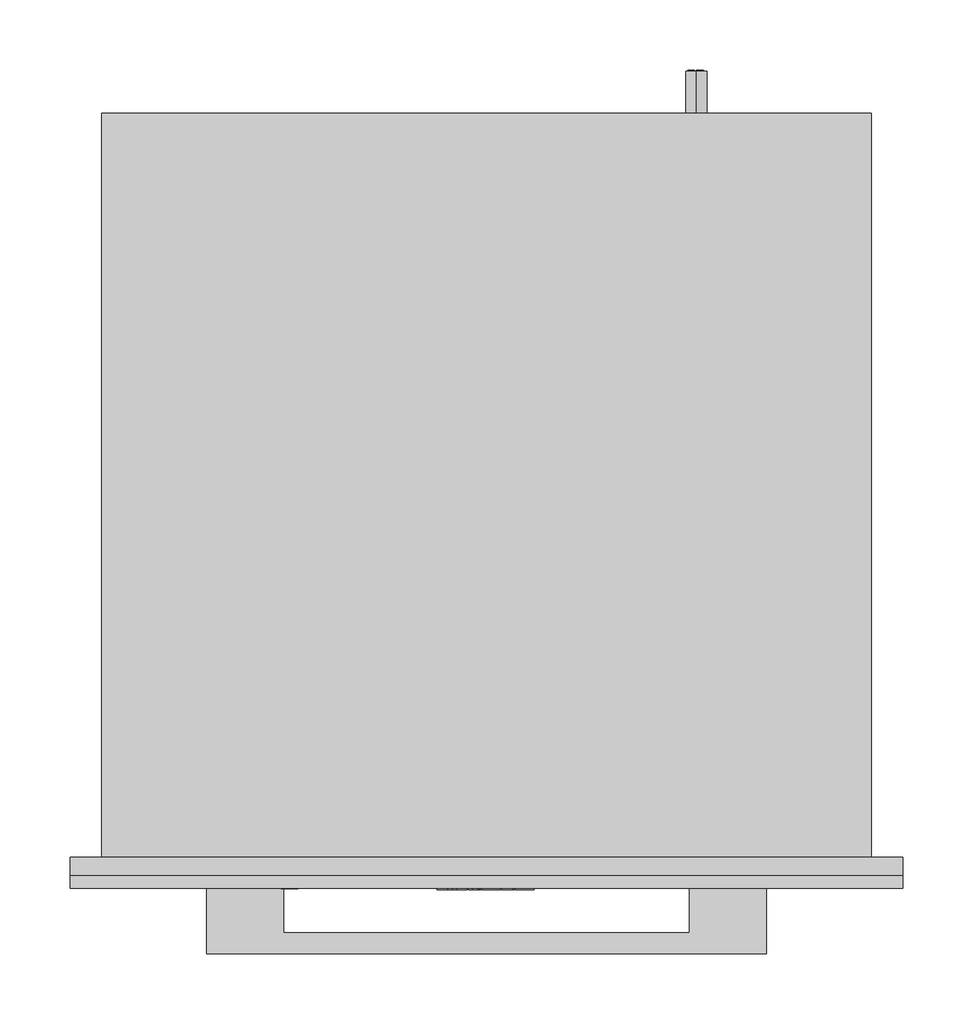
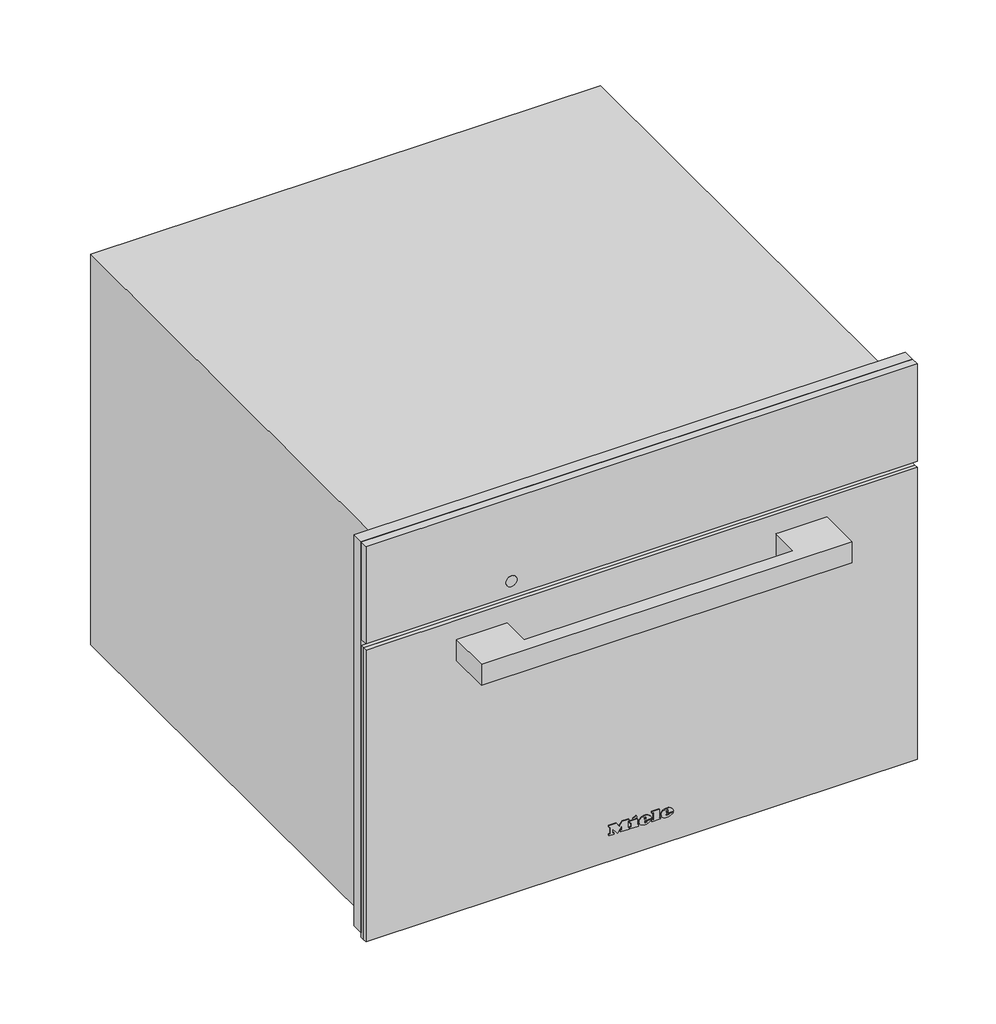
# Not in any storey: 1 proxy.
"""IFC4 building model written with IfcOpenShell, lengths in millimetres."""

import ifcopenshell
import ifcopenshell.guid

model = None  # the IFC model being written
_history = None  # IfcOwnerHistory: only IFC2X3 demands one
_inside = {}  # id of a spatial element -> (the spatial element, [elements in it])
_under = {}  # id of a project, library or spatial element -> (it, [spatial elements below it])
_declared = {}  # id of a project -> (the project, [libraries it declares])
_typed = {}  # id of a type object -> (the type object, [elements of that type])
_made_of = {}  # id of a material, layer set ... -> (it, [elements and type objects made of it])


def new_model(schema):
    """Start an empty IFC model of exactly this schema.

    Asked for "IFC4X3", IfcOpenShell would pick the latest addendum, in which some entities
    have other attributes; the version numbers below select the first issue.
    IFC2X3 requires an IfcOwnerHistory on every rooted entity: one is made here for all.
    """
    global model, _history
    if schema == "IFC4X3":
        model = ifcopenshell.file(schema_version=(4, 3, 0, 0))
    else:
        model = ifcopenshell.file(schema=schema)
    _inside.clear()
    _under.clear()
    _declared.clear()
    _typed.clear()
    _made_of.clear()
    _history = None
    if model.schema == "IFC2X3":
        org = make("IfcOrganization", Name="unknown")
        user = make(
            "IfcPersonAndOrganization",
            ThePerson=make("IfcPerson", FamilyName="unknown"),
            TheOrganization=org,
        )
        app = make(
            "IfcApplication",
            ApplicationDeveloper=org,
            Version="unknown",
            ApplicationFullName="unknown",
            ApplicationIdentifier="unknown",
        )
        _history = make(
            "IfcOwnerHistory",
            OwningUser=user,
            OwningApplication=app,
            ChangeAction="ADDED",
            CreationDate=0,
        )
    return model


def make(cls, **values):
    """One entity of the class cls with the attributes given. An attribute that is None is left unset."""
    return model.create_entity(
        cls, **{name: value for name, value in values.items() if value is not None}
    )


def rooted(cls, **values):
    """An entity with a GlobalId (a new one), such as an element, a storey or a relation."""
    return make(cls, GlobalId=ifcopenshell.guid.new(), OwnerHistory=_history, **values)


def si_unit(unit_type, name, prefix=None):
    """IfcSIUnit, for example si_unit("LENGTHUNIT", "METRE", prefix="MILLI")."""
    return make("IfcSIUnit", UnitType=unit_type, Prefix=prefix, Name=name)


def assignment(units):
    """IfcUnitAssignment: the units of a project."""
    return None if units is None else make("IfcUnitAssignment", Units=units)


def point(xyz):
    """IfcCartesianPoint."""
    return None if xyz is None else make("IfcCartesianPoint", Coordinates=xyz)


def direction(xyz):
    """IfcDirection."""
    return None if xyz is None else make("IfcDirection", DirectionRatios=xyz)


def frame(location, z_axis=None, x_axis=None):
    """IfcAxis2Placement3D, a coordinate frame: its origin and axes. An axis left out is left unset."""
    return make(
        "IfcAxis2Placement3D",
        Location=point(location),
        Axis=direction(z_axis),
        RefDirection=direction(x_axis),
    )


def frame_2d(location, x_axis=None):
    """IfcAxis2Placement2D, a coordinate frame in the plane: its origin and x axis."""
    return make(
        "IfcAxis2Placement2D", Location=point(location), RefDirection=direction(x_axis)
    )


def origin():
    """The frame at (0, 0, 0) with its axes left unset."""
    return frame((0.0, 0.0, 0.0))


def place(relative_to, where):
    """IfcLocalPlacement: puts the frame where relative to a parent placement (None: the world)."""
    return make(
        "IfcLocalPlacement", PlacementRelTo=relative_to, RelativePlacement=where
    )


def context(
    kind, dimensions, precision=None, world=None, true_north=None, identifier=None
):
    """IfcGeometricRepresentationContext, for example the 3D "Model" context."""
    return make(
        "IfcGeometricRepresentationContext",
        ContextIdentifier=identifier,
        ContextType=kind,
        CoordinateSpaceDimension=dimensions,
        Precision=precision,
        WorldCoordinateSystem=world,
        TrueNorth=true_north,
    )


def project(units=None, contexts=None):
    """IfcProject with its units and contexts."""
    return rooted(
        "IfcProject",
        Name="project",
        RepresentationContexts=contexts,
        UnitsInContext=assignment(units),
    )


def spatial(cls, under=None, at=None, **own):
    """A site, building, storey or space (cls), placed at a placement, below another one or the project."""
    s = rooted(cls, ObjectPlacement=at, **own)
    if under is not None:
        _under.setdefault(under.id(), (under, []))[1].append(s)
    return s


def polyline(points):
    """IfcPolyline through the points."""
    return make("IfcPolyline", Points=[point(p) for p in points])


def circle_curve(where, radius):
    """IfcCircle in the frame where."""
    return make("IfcCircle", Position=where, Radius=radius)


def ellipse_curve(where, semi_axis1, semi_axis2):
    """IfcEllipse in the frame where."""
    return make(
        "IfcEllipse", Position=where, SemiAxis1=semi_axis1, SemiAxis2=semi_axis2
    )


def trimmed(basis, trim1, trim2, sense, master):
    """IfcTrimmedCurve: the piece of a basis curve between two trims."""
    return make(
        "IfcTrimmedCurve",
        BasisCurve=basis,
        Trim1=trim1,
        Trim2=trim2,
        SenseAgreement=sense,
        MasterRepresentation=master,
    )


def segment(curve, same_sense, transition):
    """IfcCompositeCurveSegment."""
    return make(
        "IfcCompositeCurveSegment",
        Transition=transition,
        SameSense=same_sense,
        ParentCurve=curve,
    )


def composite_curve(segments, self_intersect=None):
    """IfcCompositeCurve: segments joined end to end."""
    return make("IfcCompositeCurve", Segments=segments, SelfIntersect=self_intersect)


def outline(outer, holes=None, kind="AREA"):
    """IfcArbitraryClosedProfileDef: a profile drawn as a closed curve; with holes, ...WithVoids."""
    if holes is None:
        return make("IfcArbitraryClosedProfileDef", ProfileType=kind, OuterCurve=outer)
    return make(
        "IfcArbitraryProfileDefWithVoids",
        ProfileType=kind,
        OuterCurve=outer,
        InnerCurves=holes,
    )


def extrude(swept, where, along, depth):
    """IfcExtrudedAreaSolid: the profile swept, set in the frame where, extruded along a direction by depth."""
    return make(
        "IfcExtrudedAreaSolid",
        SweptArea=swept,
        Position=where,
        ExtrudedDirection=direction(along),
        Depth=depth,
    )


def faces_of(points, faces, orient=None, outer=None):
    """IfcFace entities. A face is a list of loops; a loop is a list of indices into points, from 0.

    orient and outer hold one flag for each loop. By default every Orientation is true, the
    first loop of a face is its IfcFaceOuterBound and the others are IfcFaceBound.
    """
    made = []
    for i, loops in enumerate(faces):
        bounds = []
        for j, loop in enumerate(loops):
            is_outer = j == 0 if outer is None else outer[i][j]
            bounds.append(
                make(
                    "IfcFaceOuterBound" if is_outer else "IfcFaceBound",
                    Bound=make("IfcPolyLoop", Polygon=[points[k] for k in loop]),
                    Orientation=True if orient is None else orient[i][j],
                )
            )
        made.append(make("IfcFace", Bounds=bounds))
    return made


def faceted_brep(points, faces, orient=None, outer=None, voids=None):
    """IfcFacetedBrep: a solid bounded by flat faces; with voids (closed shells), ...WithVoids."""
    shared = [point(p) for p in points]
    hull = make("IfcClosedShell", CfsFaces=faces_of(shared, faces, orient, outer))
    if voids is None:
        return make("IfcFacetedBrep", Outer=hull)
    return make(
        "IfcFacetedBrepWithVoids",
        Outer=hull,
        Voids=[
            make(cls, CfsFaces=faces_of(shared, fs, o, b)) for cls, fs, o, b in voids
        ],
    )


def shape(context_of_items, identifier, shape_type, items):
    """IfcShapeRepresentation: the items that make up one representation, for example the "Body"."""
    return make(
        "IfcShapeRepresentation",
        ContextOfItems=context_of_items,
        RepresentationIdentifier=identifier,
        RepresentationType=shape_type,
        Items=items,
    )


def source(mapping_origin, context_of_items, identifier, shape_type, items):
    """IfcRepresentationMap: a shape defined once, which mapped items show again and again."""
    return make(
        "IfcRepresentationMap",
        MappingOrigin=mapping_origin,
        MappedRepresentation=shape(context_of_items, identifier, shape_type, items),
    )


def transform(
    local_origin,
    x_axis=None,
    y_axis=None,
    z_axis=None,
    scale=None,
    scale2=None,
    scale3=None,
    uniform=True,
):
    """IfcCartesianTransformationOperator3D, or its non-uniform kind. x_axis, y_axis, z_axis: its Axis1, 2, 3."""
    if uniform:
        return make(
            "IfcCartesianTransformationOperator3D",
            Axis1=direction(x_axis),
            Axis2=direction(y_axis),
            LocalOrigin=point(local_origin),
            Scale=scale,
            Axis3=direction(z_axis),
        )
    return make(
        "IfcCartesianTransformationOperator3DnonUniform",
        Axis1=direction(x_axis),
        Axis2=direction(y_axis),
        LocalOrigin=point(local_origin),
        Scale=scale,
        Axis3=direction(z_axis),
        Scale2=scale2,
        Scale3=scale3,
    )


def mapped(mapping_source, mapping_target):
    """IfcMappedItem: shows the shape of a source again, moved by a transform."""
    return make(
        "IfcMappedItem", MappingSource=mapping_source, MappingTarget=mapping_target
    )


def made_of(thing, what):
    """Note that an element or type object is made of a material, layer set ...; save() writes the relation."""
    if what is not None:
        _made_of.setdefault(what.id(), (what, []))[1].append(thing)
    return thing


def element(
    cls,
    number,
    at=None,
    inside=None,
    cuts=None,
    type_object=None,
    material=None,
    context=None,
    identifier="Body",
    shape_type=None,
    held_by="IfcProductDefinitionShape",
    body=None,
    shapes=None,
    **own,
):
    """One element of the class cls, such as IfcWall. Its Tag is "e" and its number.

    at: its placement. inside: the storey or other place that contains it. cuts: it is an
    opening in that element (IfcRelVoidsElement). A single representation is given by context,
    identifier, shape_type and body (its items); several are given by shapes. held_by: the class
    of the entity that holds the representations. save() writes the other relations.
    """
    e = rooted(cls, Tag="e%d" % number, ObjectPlacement=at, **own)
    if body is not None:
        shapes = [shape(context, identifier, shape_type, body)]
    if shapes is not None:
        e.Representation = make(held_by, Representations=shapes)
    if inside is not None:
        _inside.setdefault(inside.id(), (inside, []))[1].append(e)
    if cuts is not None:
        rooted(
            "IfcRelVoidsElement", RelatingBuildingElement=cuts, RelatedOpeningElement=e
        )
    if type_object is not None:
        _typed.setdefault(type_object.id(), (type_object, []))[1].append(e)
    return made_of(e, material)


def aggregate(whole, parts):
    """IfcRelAggregates: a whole, such as a stair, and the parts it consists of."""
    return rooted("IfcRelAggregates", RelatingObject=whole, RelatedObjects=parts)


def save(model, path):
    """Write the relations noted so far, then the file.

    IfcRelAggregates (storeys below a building ...), IfcRelContainedInSpatialStructure (elements
    in a storey), IfcRelDefinesByType, IfcRelAssociatesMaterial and IfcRelDeclares: one each for
    every whole, place, type object, material and project.
    """
    for whole, parts in _under.values():
        aggregate(whole, parts)
    for where, things in _inside.values():
        rooted(
            "IfcRelContainedInSpatialStructure",
            RelatedElements=things,
            RelatingStructure=where,
        )
    for kind, things in _typed.values():
        rooted("IfcRelDefinesByType", RelatedObjects=things, RelatingType=kind)
    for what, things in _made_of.values():
        rooted("IfcRelAssociatesMaterial", RelatedObjects=things, RelatingMaterial=what)
    for by, libraries in _declared.values():
        rooted("IfcRelDeclares", RelatingContext=by, RelatedDefinitions=libraries)
    model.write(path)


def plane_surface(at):
    """IfcPlane: the flat surface through the origin of the frame at, square to its z axis."""
    return make("IfcPlane", Position=at)


def cylinder_surface(at, radius):
    """IfcCylindricalSurface: all points at the distance radius from the z axis of the frame at."""
    return make("IfcCylindricalSurface", Position=at, Radius=radius)


def revolved_surface(curve, axis_point, axis_direction):
    """IfcSurfaceOfRevolution: the curve turned about the line through axis_point along axis_direction."""
    return make(
        "IfcSurfaceOfRevolution",
        SweptCurve=make("IfcArbitraryOpenProfileDef", ProfileType="CURVE", Curve=curve),
        AxisPosition=make("IfcAxis1Placement", Location=point(axis_point), Axis=direction(axis_direction)),
    )


def extruded_surface(curve, direction_of_extrusion, depth):
    """IfcSurfaceOfLinearExtrusion: the curve pushed along a direction by depth."""
    return make(
        "IfcSurfaceOfLinearExtrusion",
        SweptCurve=make("IfcArbitraryOpenProfileDef", ProfileType="CURVE", Curve=curve),
        ExtrudedDirection=direction(direction_of_extrusion),
        Depth=depth,
    )


def advanced_brep(points, edges, surfaces, faces):
    """IfcAdvancedBrep: a solid bounded by faces that lie on surfaces and meet in shared edges.

    An edge is (start, end): straight between two places in points (the first is 0);
    or (start, end, curve); or (start, end, curve, False) where it runs against its curve.
    A face is (place in surfaces, loops), or (place, loops, False) where it looks against
    its surface's normal. A loop lists edges by number (the first is 1), with a minus sign
    where the edge is run from its end to its start. The first loop is the outer one.
    """
    corners = [point(p) for p in points]
    vertices = [make("IfcVertexPoint", VertexGeometry=c) for c in corners]
    made = []
    for start, end, *more in edges:
        made.append(
            make(
                "IfcEdgeCurve",
                EdgeStart=vertices[start],
                EdgeEnd=vertices[end],
                EdgeGeometry=more[0] if more else make("IfcPolyline", Points=[corners[start], corners[end]]),
                SameSense=more[1] if len(more) > 1 else True,
            )
        )
    hull = []
    for where, loops, *sense in faces:
        bounds = []
        for j, loop in enumerate(loops):
            ring = [make("IfcOrientedEdge", EdgeElement=made[abs(k) - 1], Orientation=k > 0) for k in loop]
            bounds.append(
                make(
                    "IfcFaceOuterBound" if j == 0 else "IfcFaceBound",
                    Bound=make("IfcEdgeLoop", EdgeList=ring),
                    Orientation=True,
                )
            )
        hull.append(make("IfcAdvancedFace", Bounds=bounds, FaceSurface=surfaces[where], SameSense=sense[0] if sense else True))
    return make("IfcAdvancedBrep", Outer=make("IfcClosedShell", CfsFaces=hull))


def specialty_equipment_33d3bdb7(model_context):
    return source(origin(), model_context, "Body", "SolidModel", [
        extrude(outline(polyline([(455.0, 297.5), (455.0, -297.5), (9.0, -297.5), (9.0, -272.5), (344.0, -272.5), (344.0, 272.5), (9.0, 272.5), (9.0, 297.5), (455.0, 297.5)])), frame((0.0, -13.0, 0.0), z_axis=(0.0, 1.0, 0.0), x_axis=(0.0, 0.0, 1.0)), (0.0, 0.0, 1.0), 13.0),
        advanced_brep(
        [(150.0, 561.0, 410.5), (150.0, 561.0, 395.5), (144.4098301, 561.0, 398.0), (148.5, 561.0, 398.0), (148.5, 561.0, 408.0), (147.4955303, 561.0, 408.0), (147.4955303, 561.0, 399.0), (144.0315043, 561.0, 399.0), (144.0315043, 561.0, 398.4582978), (155.0, 561.0, 398.0), (155.0, 561.0, 408.0), (150.0, 561.0, 408.0), (150.0, 561.0, 407.0), (154.0, 561.0, 407.0), (154.0, 561.0, 403.5), (151.0, 561.0, 403.5), (151.0, 561.0, 402.5), (154.0, 561.0, 402.5), (154.0, 561.0, 399.0), (150.0, 561.0, 399.0), (150.0, 561.0, 398.0), (150.0, 531.0, 395.5), (150.0, 531.0, 410.5), (155.0, 562.0, 408.0), (155.0, 562.0, 398.0), (150.0, 562.0, 398.0), (150.0, 562.0, 399.0), (154.0, 562.0, 399.0), (154.0, 562.0, 402.5), (151.0, 562.0, 402.5), (151.0, 562.0, 403.5), (154.0, 562.0, 403.5), (154.0, 562.0, 407.0), (150.0, 562.0, 407.0), (150.0, 562.0, 408.0), (148.5, 562.0, 398.0), (144.0315043, 562.0, 398.0), (144.0315043, 562.0, 399.0), (147.4955303, 562.0, 399.0), (147.4955303, 562.0, 408.0), (148.5, 562.0, 408.0), (144.0315043, 561.0, 398.0)],
        [
            (0, 1, circle_curve(frame((150.0, 561.0, 403.0), z_axis=(0.0, 1.0, 0.0), x_axis=(0.0, 0.0, 1.0)), 7.5)),
            (1, 2, circle_curve(frame((150.0, 561.0, 403.0), z_axis=(0.0, 1.0, 0.0), x_axis=(0.0, 0.0, 1.0)), 7.5)),
            (2, 3),
            (3, 4),
            (4, 5),
            (5, 6),
            (6, 7),
            (7, 8),
            (8, 0, circle_curve(frame((150.0, 561.0, 403.0), z_axis=(0.0, 1.0, 0.0), x_axis=(0.0, 0.0, 1.0)), 7.5)),
            (9, 10),
            (10, 11),
            (11, 12),
            (12, 13),
            (13, 14),
            (14, 15),
            (15, 16),
            (16, 17),
            (17, 18),
            (18, 19),
            (19, 20),
            (20, 9),
            (21, 22, circle_curve(frame((150.0, 531.0, 403.0), z_axis=(0.0, -1.0, 0.0), x_axis=(0.0, 0.0, 1.0)), 7.5)),
            (22, 21, circle_curve(frame((150.0, 531.0, 403.0), z_axis=(0.0, -1.0, 0.0), x_axis=(0.0, 0.0, 1.0)), 7.5)),
            (0, 22),
            (21, 1),
            (8, 2, circle_curve(frame((150.0, 561.0, 403.0), z_axis=(0.0, -1.0, 0.0), x_axis=(0.0, 0.0, 1.0)), 7.5)),
            (23, 24),
            (24, 25),
            (25, 26),
            (26, 27),
            (27, 28),
            (28, 29),
            (29, 30),
            (30, 31),
            (31, 32),
            (32, 33),
            (33, 34),
            (34, 23),
            (35, 36),
            (36, 37),
            (37, 38),
            (38, 39),
            (39, 40),
            (40, 35),
            (8, 41),
            (41, 2),
            (23, 10),
            (9, 24),
            (20, 25),
            (19, 26),
            (18, 27),
            (17, 28),
            (16, 29),
            (15, 30),
            (14, 31),
            (13, 32),
            (12, 33),
            (11, 34),
            (35, 3),
            (41, 36),
            (7, 37),
            (6, 38),
            (5, 39),
            (4, 40),
        ],
        [
            plane_surface(frame((150.0, 561.0, 410.5), z_axis=(0.0, 1.0, 0.0), x_axis=(1.0, 0.0, 0.0))),
            plane_surface(frame((150.0, 531.0, 410.5), z_axis=(0.0, -1.0, 0.0), x_axis=(-1.0, 0.0, 0.0))),
            cylinder_surface(frame((150.0, 561.0, 403.0), z_axis=(0.0, -1.0, 0.0), x_axis=(0.0, 0.0, 1.0)), 7.5),
            plane_surface(frame((155.0, 562.0, 408.0), z_axis=(0.0, 1.0, 0.0), x_axis=(0.0, 0.0, -1.0))),
            plane_surface(frame((155.0, 561.0, 408.0), z_axis=(0.0, -1.0, 0.0), x_axis=(0.0, 0.0, 1.0))),
            plane_surface(frame((155.0, 562.0, 408.0), z_axis=(1.0, 0.0, 0.0), x_axis=(0.0, -1.0, 0.0))),
            plane_surface(frame((155.0, 562.0, 398.0), z_axis=(0.0, 0.0, -1.0), x_axis=(0.0, -1.0, 0.0))),
            plane_surface(frame((150.0, 562.0, 398.0), z_axis=(-1.0, 0.0, 0.0), x_axis=(0.0, -1.0, 0.0))),
            plane_surface(frame((150.0, 562.0, 399.0), z_axis=(0.0, 0.0, 1.0), x_axis=(0.0, -1.0, 0.0))),
            plane_surface(frame((154.0, 562.0, 399.0), z_axis=(-1.0, 0.0, 0.0), x_axis=(0.0, -1.0, 0.0))),
            plane_surface(frame((154.0, 562.0, 402.5), z_axis=(0.0, 0.0, -1.0), x_axis=(0.0, -1.0, 0.0))),
            plane_surface(frame((151.0, 562.0, 402.5), z_axis=(-1.0, 0.0, 0.0), x_axis=(0.0, -1.0, 0.0))),
            plane_surface(frame((151.0, 562.0, 403.5), z_axis=(0.0, 0.0, 1.0), x_axis=(0.0, -1.0, 0.0))),
            plane_surface(frame((154.0, 562.0, 403.5), z_axis=(-1.0, 0.0, 0.0), x_axis=(0.0, -1.0, 0.0))),
            plane_surface(frame((154.0, 562.0, 407.0), z_axis=(0.0, 0.0, -1.0), x_axis=(0.0, -1.0, 0.0))),
            plane_surface(frame((150.0, 562.0, 407.0), z_axis=(-1.0, 0.0, 0.0), x_axis=(0.0, -1.0, 0.0))),
            plane_surface(frame((150.0, 562.0, 408.0), z_axis=(0.0, 0.0, 1.0), x_axis=(0.0, -1.0, 0.0))),
            plane_surface(frame((148.5, 562.0, 398.0), z_axis=(0.0, 0.0, -1.0), x_axis=(0.0, -1.0, 0.0))),
            plane_surface(frame((144.0315043, 562.0, 398.0), z_axis=(-1.0, 0.0, 0.0), x_axis=(0.0, -1.0, 0.0))),
            plane_surface(frame((144.0315043, 562.0, 399.0), z_axis=(0.0, 0.0, 1.0), x_axis=(0.0, -1.0, 0.0))),
            plane_surface(frame((147.4955303, 562.0, 399.0), z_axis=(-1.0, 0.0, 0.0), x_axis=(0.0, -1.0, 0.0))),
            plane_surface(frame((147.4955303, 562.0, 408.0), z_axis=(0.0, 0.0, 1.0), x_axis=(0.0, -1.0, 0.0))),
            plane_surface(frame((148.5, 562.0, 408.0), z_axis=(1.0, 0.0, 0.0), x_axis=(0.0, -1.0, 0.0))),
        ],
        [
            (0, [[1, 2, 3, 4, 5, 6, 7, 8, 9], [10, 11, 12, 13, 14, 15, 16, 17, 18, 19, 20, 21]]),
            (1, [[22, 23]]),
            (2, [[-1, 24, -22, 25]]),
            (2, [[-23, -24, -9, 26, -2, -25]]),
            (3, [[27, 28, 29, 30, 31, 32, 33, 34, 35, 36, 37, 38]]),
            (3, [[39, 40, 41, 42, 43, 44]]),
            (4, [[45, 46, -26]]),
            (5, [[-27, 47, -10, 48]]),
            (6, [[-28, -48, -21, 49]]),
            (7, [[-29, -49, -20, 50]]),
            (8, [[-30, -50, -19, 51]]),
            (9, [[-31, -51, -18, 52]]),
            (10, [[-32, -52, -17, 53]]),
            (11, [[-33, -53, -16, 54]]),
            (12, [[-34, -54, -15, 55]]),
            (13, [[-35, -55, -14, 56]]),
            (14, [[-36, -56, -13, 57]]),
            (15, [[-37, -57, -12, 58]]),
            (16, [[-38, -58, -11, -47]]),
            (17, [[-39, 59, -3, -46, 60]]),
            (18, [[-40, -60, -45, -8, 61]]),
            (19, [[-41, -61, -7, 62]]),
            (20, [[-42, -62, -6, 63]]),
            (21, [[-43, -63, -5, 64]]),
            (22, [[-44, -64, -4, -59]]),
        ],
    ),
        faceted_brep([(275.0, 531.0, 445.0), (275.0, 531.0, 0.0), (-275.0, 531.0, 0.0), (-275.0, 531.0, 445.0), (275.0, 0.0, 445.0), (-275.0, 0.0, 445.0), (-275.0, 0.0, 0.0), (275.0, 0.0, 0.0), (-272.5, 0.0, 344.0), (272.5, 0.0, 344.0), (272.5, 0.0, 8.0), (-272.5, 0.0, 8.0), (272.5, 12.0, 344.0), (-272.5, 12.0, 344.0), (-272.5, 12.0, 8.0), (272.5, 12.0, 8.0), (161.0, 12.0, 286.0), (161.0, 12.0, 58.0), (-220.0, 12.0, 58.0), (-220.0, 12.0, 286.0), (161.0, 419.0, 286.0), (-220.0, 419.0, 286.0), (-220.0, 419.0, 58.0), (161.0, 419.0, 58.0)], [[[0, 1, 2, 3]], [[4, 5, 6, 7], [8, 9, 10, 11]], [[0, 3, 5, 4]], [[3, 2, 6, 5]], [[2, 1, 7, 6]], [[1, 0, 4, 7]], [[12, 13, 14, 15], [16, 17, 18, 19]], [[13, 12, 9, 8]], [[14, 13, 8, 11]], [[15, 14, 11, 10]], [[12, 15, 10, 9]], [[20, 21, 22, 23]], [[20, 23, 17, 16]], [[23, 22, 18, 17]], [[22, 21, 19, 18]], [[21, 20, 16, 19]]]),
        advanced_brep(
        [(26.2998, -23.0, 36.7018), (26.2998, -23.0, 37.8532), (33.9264, -23.0, 37.8532), (20.6568, -23.0, 37.8532), (23.7918, -23.0, 34.0), (33.7326, -23.0, 36.7018), (30.2898, -23.0, 36.7018), (27.5766, -23.0, 35.425), (26.2998, -23.0, 39.3124), (26.2998, -23.0, 40.555), (28.2492, -23.0, 40.555), (28.2492, -23.0, 39.3124), (26.2998, -22.0, 36.7018), (27.5766, -22.0, 35.425), (30.2898, -22.0, 36.7018), (33.7326, -22.0, 36.7018), (23.7918, -22.0, 34.0), (20.6568, -22.0, 37.8532), (33.9264, -22.0, 37.8532), (26.2998, -22.0, 37.8532), (26.2998, -22.0, 39.3124), (28.2492, -22.0, 39.3124), (28.2492, -22.0, 40.555), (26.2998, -22.0, 40.555)],
        [
            (0, 1),
            (1, 2),
            (2, 3, ellipse_curve(frame((27.2916, -23.0, 37.8532), z_axis=(0.0, -1.0, 0.0), x_axis=(-1.0, 0.0, 0.0)), 6.6348, 5.4834)),
            (3, 4, circle_curve(frame((25.0686622, -23.0, 38.2408), z_axis=(0.0, -1.0, 0.0), x_axis=(0.0, 0.0, -1.0)), 4.4288556)),
            (4, 5, circle_curve(frame((27.1587808, -23.0, 41.2504), z_axis=(0.0, -1.0, 0.0), x_axis=(0.0, 0.0, -1.0)), 7.9940516)),
            (5, 6),
            (6, 7, circle_curve(frame((28.1338588, -23.0, 37.762), z_axis=(0.0, 1.0, 0.0), x_axis=(0.0, 0.0, -1.0)), 2.4025208)),
            (7, 0, circle_curve(frame((27.5766, -23.0, 36.7018), z_axis=(0.0, 1.0, 0.0), x_axis=(0.0, 0.0, -1.0)), 1.2768)),
            (8, 9),
            (9, 10, circle_curve(frame((27.2745, -23.0, 40.555), z_axis=(0.0, 1.0, 0.0), x_axis=(0.0, 0.0, -1.0)), 0.9747)),
            (10, 11),
            (11, 8),
            (12, 13, circle_curve(frame((27.5766, -22.0, 36.7018), z_axis=(0.0, -1.0, 0.0), x_axis=(0.0, 0.0, -1.0)), 1.2768)),
            (13, 14, circle_curve(frame((28.1338588, -22.0, 37.762), z_axis=(0.0, -1.0, 0.0), x_axis=(0.0, 0.0, -1.0)), 2.4025208)),
            (14, 15),
            (15, 16, circle_curve(frame((27.1587808, -22.0, 41.2504), z_axis=(0.0, 1.0, 0.0), x_axis=(0.0, 0.0, -1.0)), 7.9940516)),
            (16, 17, circle_curve(frame((25.0686622, -22.0, 38.2408), z_axis=(0.0, 1.0, 0.0), x_axis=(0.0, 0.0, -1.0)), 4.4288556)),
            (17, 18, ellipse_curve(frame((27.2916, -22.0, 37.8532), z_axis=(0.0, 1.0, 0.0), x_axis=(-1.0, 0.0, 0.0)), 6.6348, 5.4834)),
            (18, 19),
            (19, 12),
            (20, 21),
            (21, 22),
            (22, 23, circle_curve(frame((27.2745, -22.0, 40.555), z_axis=(0.0, -1.0, 0.0), x_axis=(0.0, 0.0, -1.0)), 0.9747)),
            (23, 20),
            (0, 12),
            (19, 1),
            (18, 2),
            (5, 15),
            (14, 6),
            (17, 3),
            (13, 7),
            (16, 4),
            (8, 20),
            (23, 9),
            (22, 10),
            (21, 11),
        ],
        [
            plane_surface(frame((26.2998, -23.0, 37.8532), z_axis=(0.0, -1.0, 0.0), x_axis=(0.0, 0.0, 1.0))),
            plane_surface(frame((26.2998, -22.0, 37.8532), z_axis=(0.0, 1.0, 0.0), x_axis=(0.0, 0.0, -1.0))),
            plane_surface(frame((26.2998, -23.0, 36.7018), z_axis=(1.0, 0.0, 0.0), x_axis=(0.0, 1.0, 0.0))),
            plane_surface(frame((26.2998, -23.0, 37.8532), z_axis=(0.0, 0.0, -1.0), x_axis=(0.0, 1.0, 0.0))),
            plane_surface(frame((33.7326, -23.0, 36.7018), z_axis=(0.0, 0.0, 1.0), x_axis=(0.0, 1.0, 0.0))),
            extruded_surface(trimmed(ellipse_curve(frame((27.2916, -21.0, 37.8532), z_axis=(0.0, -1.0, 0.0), x_axis=(-1.0, 0.0, 0.0)), 6.6348, 5.4834), [point((33.9264, -21.0, 37.8532))], [point((20.6568, -21.0, 37.8532))], True, "CARTESIAN"), (0.0, -1.0, 0.0), 1.0),
            revolved_surface(polyline([(28.1338588, -22.0, 35.3594792), (28.1338588, -23.0, 35.3594792)]), (28.1338588, -22.0, 37.762), (0.0, 1.0, 0.0)),
            revolved_surface(polyline([(27.5766, -22.0, 35.425), (27.5766, -23.0, 35.425)]), (27.5766, -22.0, 36.7018), (0.0, 1.0, 0.0)),
            cylinder_surface(frame((25.0686622, -22.0, 38.2408), z_axis=(0.0, -1.0, 0.0), x_axis=(0.0, 0.0, -1.0)), 4.4288556),
            cylinder_surface(frame((27.1587808, -22.0, 41.2504), z_axis=(0.0, -1.0, 0.0), x_axis=(0.0, 0.0, -1.0)), 7.9940516),
            plane_surface(frame((26.2998, -23.0, 39.3124), z_axis=(1.0, 0.0, 0.0), x_axis=(0.0, 1.0, 0.0))),
            revolved_surface(polyline([(27.2745, -22.0, 39.5803), (27.2745, -23.0, 39.5803)]), (27.2745, -22.0, 40.555), (0.0, 1.0, 0.0)),
            plane_surface(frame((28.2492, -23.0, 40.555), z_axis=(-1.0, 0.0, 0.0), x_axis=(0.0, 1.0, 0.0))),
            plane_surface(frame((28.2492, -23.0, 39.3124), z_axis=(0.0, 0.0, 1.0), x_axis=(0.0, 1.0, 0.0))),
        ],
        [
            (0, [[1, 2, 3, 4, 5, 6, 7, 8], [9, 10, 11, 12]]),
            (1, [[13, 14, 15, 16, 17, 18, 19, 20], [21, 22, 23, 24]]),
            (2, [[-1, 25, -20, 26]]),
            (3, [[-2, -26, -19, 27]]),
            (4, [[-6, 28, -15, 29]]),
            (5, [[-3, -27, -18, 30]]),
            (6, [[-7, -29, -14, 31]]),
            (7, [[-8, -31, -13, -25]]),
            (8, [[-4, -30, -17, 32]]),
            (9, [[-5, -32, -16, -28]]),
            (10, [[-9, 33, -24, 34]]),
            (11, [[-10, -34, -23, 35]]),
            (12, [[-11, -35, -22, 36]]),
            (13, [[-12, -36, -21, -33]]),
        ],
    ),
        advanced_brep(
        [(2.508, -23.0, 36.7018), (2.508, -23.0, 37.8532), (10.1346, -23.0, 37.8532), (-3.135, -23.0, 37.8532), (0.0, -23.0, 34.0), (9.9408, -23.0, 36.7018), (6.498, -23.0, 36.7018), (3.7848, -23.0, 35.425), (2.508, -23.0, 39.3124), (2.508, -23.0, 40.555), (4.4574, -23.0, 40.555), (4.4574, -23.0, 39.3124), (2.508, -22.0, 36.7018), (3.7848, -22.0, 35.425), (6.498, -22.0, 36.7018), (9.9408, -22.0, 36.7018), (0.0, -22.0, 34.0), (-3.135, -22.0, 37.8532), (10.1346, -22.0, 37.8532), (2.508, -22.0, 37.8532), (2.508, -22.0, 39.3124), (4.4574, -22.0, 39.3124), (4.4574, -22.0, 40.555), (2.508, -22.0, 40.555)],
        [
            (0, 1),
            (1, 2),
            (2, 3, ellipse_curve(frame((3.4998, -23.0, 37.8532), z_axis=(0.0, -1.0, 0.0), x_axis=(-1.0, 0.0, 0.0)), 6.6348, 5.4834)),
            (3, 4, circle_curve(frame((1.2768622, -23.0, 38.2408), z_axis=(0.0, -1.0, 0.0), x_axis=(0.0, 0.0, -1.0)), 4.4288556)),
            (4, 5, circle_curve(frame((3.3669808, -23.0, 41.2504), z_axis=(0.0, -1.0, 0.0), x_axis=(0.0, 0.0, -1.0)), 7.9940516)),
            (5, 6),
            (6, 7, circle_curve(frame((4.3420588, -23.0, 37.762), z_axis=(0.0, 1.0, 0.0), x_axis=(0.0, 0.0, -1.0)), 2.4025208)),
            (7, 0, circle_curve(frame((3.7848, -23.0, 36.7018), z_axis=(0.0, 1.0, 0.0), x_axis=(0.0, 0.0, -1.0)), 1.2768)),
            (8, 9),
            (9, 10, circle_curve(frame((3.4827, -23.0, 40.555), z_axis=(0.0, 1.0, 0.0), x_axis=(0.0, 0.0, -1.0)), 0.9747)),
            (10, 11),
            (11, 8),
            (12, 13, circle_curve(frame((3.7848, -22.0, 36.7018), z_axis=(0.0, -1.0, 0.0), x_axis=(0.0, 0.0, -1.0)), 1.2768)),
            (13, 14, circle_curve(frame((4.3420588, -22.0, 37.762), z_axis=(0.0, -1.0, 0.0), x_axis=(0.0, 0.0, -1.0)), 2.4025208)),
            (14, 15),
            (15, 16, circle_curve(frame((3.3669808, -22.0, 41.2504), z_axis=(0.0, 1.0, 0.0), x_axis=(0.0, 0.0, -1.0)), 7.9940516)),
            (16, 17, circle_curve(frame((1.2768622, -22.0, 38.2408), z_axis=(0.0, 1.0, 0.0), x_axis=(0.0, 0.0, -1.0)), 4.4288556)),
            (17, 18, ellipse_curve(frame((3.4998, -22.0, 37.8532), z_axis=(0.0, 1.0, 0.0), x_axis=(-1.0, 0.0, 0.0)), 6.6348, 5.4834)),
            (18, 19),
            (19, 12),
            (20, 21),
            (21, 22),
            (22, 23, circle_curve(frame((3.4827, -22.0, 40.555), z_axis=(0.0, -1.0, 0.0), x_axis=(0.0, 0.0, -1.0)), 0.9747)),
            (23, 20),
            (0, 12),
            (19, 1),
            (18, 2),
            (5, 15),
            (14, 6),
            (17, 3),
            (13, 7),
            (16, 4),
            (8, 20),
            (23, 9),
            (22, 10),
            (21, 11),
        ],
        [
            plane_surface(frame((2.508, -23.0, 37.8532), z_axis=(0.0, -1.0, 0.0), x_axis=(0.0, 0.0, 1.0))),
            plane_surface(frame((2.508, -22.0, 37.8532), z_axis=(0.0, 1.0, 0.0), x_axis=(0.0, 0.0, -1.0))),
            plane_surface(frame((2.508, -23.0, 36.7018), z_axis=(1.0, 0.0, 0.0), x_axis=(0.0, 1.0, 0.0))),
            plane_surface(frame((2.508, -23.0, 37.8532), z_axis=(0.0, 0.0, -1.0), x_axis=(0.0, 1.0, 0.0))),
            plane_surface(frame((9.9408, -23.0, 36.7018), z_axis=(0.0, 0.0, 1.0), x_axis=(0.0, 1.0, 0.0))),
            extruded_surface(trimmed(ellipse_curve(frame((3.4998, -21.0, 37.8532), z_axis=(0.0, -1.0, 0.0), x_axis=(-1.0, 0.0, 0.0)), 6.6348, 5.4834), [point((10.1346, -21.0, 37.8532))], [point((-3.135, -21.0, 37.8532))], True, "CARTESIAN"), (0.0, -1.0, 0.0), 1.0),
            revolved_surface(polyline([(4.3420588, -22.0, 35.3594792), (4.3420588, -23.0, 35.3594792)]), (4.3420588, -22.0, 37.762), (0.0, 1.0, 0.0)),
            revolved_surface(polyline([(3.7848, -22.0, 35.425), (3.7848, -23.0, 35.425)]), (3.7848, -22.0, 36.7018), (0.0, 1.0, 0.0)),
            cylinder_surface(frame((1.2768622, -22.0, 38.2408), z_axis=(0.0, -1.0, 0.0), x_axis=(0.0, 0.0, -1.0)), 4.4288556),
            cylinder_surface(frame((3.3669808, -22.0, 41.2504), z_axis=(0.0, -1.0, 0.0), x_axis=(0.0, 0.0, -1.0)), 7.9940516),
            plane_surface(frame((2.508, -23.0, 39.3124), z_axis=(1.0, 0.0, 0.0), x_axis=(0.0, 1.0, 0.0))),
            revolved_surface(polyline([(3.4827, -22.0, 39.5803), (3.4827, -23.0, 39.5803)]), (3.4827, -22.0, 40.555), (0.0, 1.0, 0.0)),
            plane_surface(frame((4.4574, -23.0, 40.555), z_axis=(-1.0, 0.0, 0.0), x_axis=(0.0, 1.0, 0.0))),
            plane_surface(frame((4.4574, -23.0, 39.3124), z_axis=(0.0, 0.0, 1.0), x_axis=(0.0, 1.0, 0.0))),
        ],
        [
            (0, [[1, 2, 3, 4, 5, 6, 7, 8], [9, 10, 11, 12]]),
            (1, [[13, 14, 15, 16, 17, 18, 19, 20], [21, 22, 23, 24]]),
            (2, [[-1, 25, -20, 26]]),
            (3, [[-2, -26, -19, 27]]),
            (4, [[-6, 28, -15, 29]]),
            (5, [[-3, -27, -18, 30]]),
            (6, [[-7, -29, -14, 31]]),
            (7, [[-8, -31, -13, -25]]),
            (8, [[-4, -30, -17, 32]]),
            (9, [[-5, -32, -16, -28]]),
            (10, [[-9, 33, -24, 34]]),
            (11, [[-10, -34, -23, 35]]),
            (12, [[-11, -35, -22, 36]]),
            (13, [[-12, -36, -21, -33]]),
        ],
    ),
        extrude(outline(polyline([(44.7274, -9.9522), (42.8806, -9.0858), (44.6818, -5.2212), (46.5286, -6.0762), (44.7274, -9.9522)])), frame((0.0, -23.0, 0.0), z_axis=(0.0, 1.0, 0.0), x_axis=(0.0, 0.0, 1.0)), (0.0, 0.0, 1.0), 1.0),
        extrude(outline(polyline([(42.6298, -12.768), (40.5892, -12.768), (40.5892, -11.4114), (35.9152, -11.4114), (35.9152, -12.768), (34.0, -12.768), (34.0, -3.7734), (35.9152, -3.7734), (35.9152, -5.0958), (42.6298, -5.0958), (42.6298, -12.768)])), frame((0.0, -23.0, 0.0), z_axis=(0.0, 1.0, 0.0), x_axis=(0.0, 0.0, 1.0)), (0.0, 0.0, 1.0), 1.0),
        extrude(outline(polyline([(43.5418, 10.773), (43.5418, 12.141), (35.9152, 12.141), (35.9152, 10.773), (34.0, 10.773), (34.0, 20.0184), (35.9152, 20.0184), (35.9152, 18.6162), (45.4, 18.6162), (45.4, 10.773), (43.5418, 10.773)])), frame((0.0, -23.0, 0.0), z_axis=(0.0, 1.0, 0.0), x_axis=(0.0, 0.0, 1.0)), (0.0, 0.0, 1.0), 1.0),
        extrude(outline(polyline([(43.5418, -35.4882), (43.5418, -34.1088), (35.9152, -34.1088), (35.9152, -35.4882), (34.0, -35.4882), (34.0, -30.4722), (35.9152, -30.4722), (35.9152, -31.8402), (40.7429247, -31.8402), (34.0, -26.7444), (40.9402223, -21.6258), (35.9152, -21.6258), (35.9152, -23.028), (34.0, -23.028), (34.0, -13.9308), (35.9152, -13.9308), (35.9152, -15.3786), (43.5418, -15.3786), (43.5418, -13.9308), (45.4, -13.9308), (45.4, -20.8734), (41.125, -24.2022), (45.4, -27.5424), (45.4, -35.4882), (43.5418, -35.4882)])), frame((0.0, -23.0, 0.0), z_axis=(0.0, 1.0, 0.0), x_axis=(0.0, 0.0, 1.0)), (0.0, 0.0, 1.0), 1.0),
        extrude(outline(polyline([(297.5, -22.0), (-297.5, -22.0), (-297.5, -13.0), (297.5, -13.0), (297.5, -22.0)])), frame((0.0, 0.0, 344.0), z_axis=(0.0, 0.0, 1.0), x_axis=(1.0, 0.0, 0.0)), (0.0, 0.0, 1.0), 111.0),
        extrude(outline(composite_curve([segment(trimmed(circle_curve(frame_2d((361.0, -140.5745637)), 6.0), [point((361.0, -146.5745637))], [point((361.0, -134.5745637))], False, "CARTESIAN"), True, "CONTINUOUS"), segment(trimmed(circle_curve(frame_2d((361.0, -140.5745637)), 6.0), [point((361.0, -134.5745637))], [point((361.0, -146.5745637))], False, "CARTESIAN"), True, "CONTINUOUS")], self_intersect=False)), frame((0.0, -22.5, 0.0), z_axis=(0.0, 1.0, 0.0), x_axis=(0.0, 0.0, 1.0)), (0.0, 0.0, 1.0), 1.0),
        extrude(outline(polyline([(-297.5, -18.0), (297.5, -18.0), (297.5, -22.0), (-297.5, -22.0), (-297.5, -18.0)])), frame((0.0, 0.0, 4.0), z_axis=(0.0, 0.0, 1.0), x_axis=(1.0, 0.0, 0.0)), (0.0, 0.0, 1.0), 333.0),
        extrude(outline(polyline([(297.5, -18.0), (-297.5, -18.0), (-297.5, -13.0), (297.5, -13.0), (297.5, -18.0)])), frame((0.0, 0.0, 4.0), z_axis=(0.0, 0.0, 1.0), x_axis=(1.0, 0.0, 0.0)), (0.0, 0.0, 1.0), 333.0),
        extrude(outline(polyline([(-200.0, -69.0), (-200.0, -22.0), (-145.0, -22.0), (-145.0, -54.0), (145.0, -54.0), (145.0, -22.0), (200.0, -22.0), (200.0, -69.0), (-200.0, -69.0)])), frame((0.0, 0.0, 291.0), z_axis=(0.0, 0.0, 1.0), x_axis=(1.0, 0.0, 0.0)), (0.0, 0.0, 1.0), 24.0),
    ])


model = new_model("IFC4")

# Units and contexts
model_context = context("Model", 3, world=origin())
ifc_project = project(units=[si_unit("LENGTHUNIT", "METRE", prefix="MILLI")], contexts=[model_context])

# Site, building
site = spatial("IfcSite", under=ifc_project)
building = spatial("IfcBuilding", under=site)

# Proxy
placement = place(None, origin())
specialty_equipment_shape = specialty_equipment_33d3bdb7(model_context)
element("IfcBuildingElementProxy", 1, Name="11134600_I_DGM7840_OBSW : 23784024_I_11134600_DGM7840_OBSW", ObjectType="11134600_I_DGM7840_OBSW : 23784024_I_11134600_DGM7840_OBSW", at=placement, inside=building, context=model_context, shape_type="MappedRepresentation", body=[
    mapped(specialty_equipment_shape, transform((0.0, 0.0, 0.0), x_axis=(1.0, 0.0, 0.0), y_axis=(0.0, 1.0, 0.0), z_axis=(0.0, 0.0, 1.0))),
])

save(model, "model.ifc")
